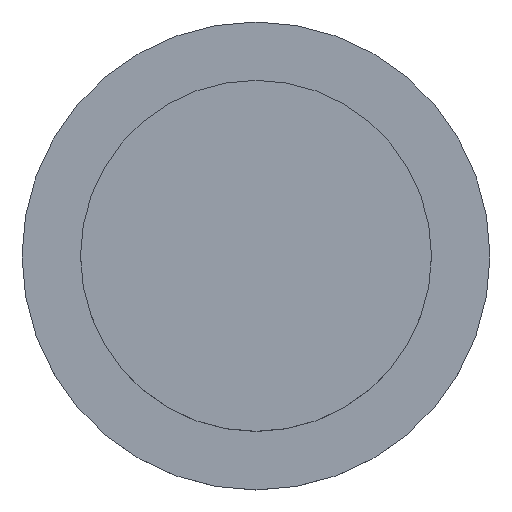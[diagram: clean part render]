
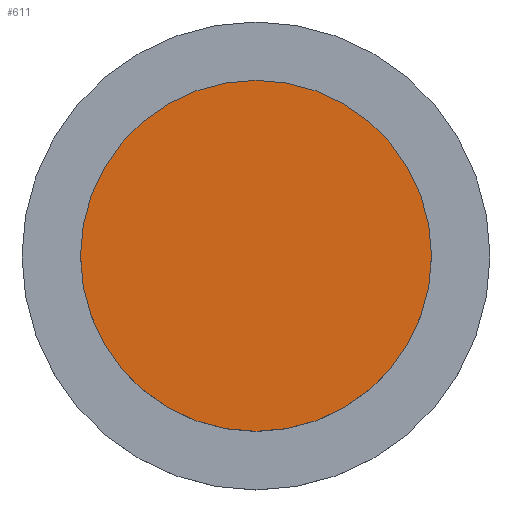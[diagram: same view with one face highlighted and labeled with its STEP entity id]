
A CAD part, top view. The second image highlights one B-rep face of the part: STEP entity #611.
In plain terms, the highlighted planar face has unit normal (0, 0, 1).
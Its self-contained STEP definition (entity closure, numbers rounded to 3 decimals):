
#526 = VERTEX_POINT('',#527);
#527 = CARTESIAN_POINT('',(150.,0.,90.));
#534 = CYLINDRICAL_SURFACE('',#535,150.);
#535 = AXIS2_PLACEMENT_3D('',#536,#537,#538);
#536 = CARTESIAN_POINT('',(0.,0.,72.));
#537 = DIRECTION('',(-0.,-0.,-1.));
#538 = DIRECTION('',(1.,0.,0.));
#553 = EDGE_CURVE('',#526,#526,#554,.T.);
#554 = SURFACE_CURVE('',#555,(#560,#567),.PCURVE_S1.);
#555 = CIRCLE('',#556,150.);
#556 = AXIS2_PLACEMENT_3D('',#557,#558,#559);
#557 = CARTESIAN_POINT('',(0.,0.,90.));
#558 = DIRECTION('',(0.,0.,1.));
#559 = DIRECTION('',(1.,0.,0.));
#560 = PCURVE('',#534,#561);
#561 = DEFINITIONAL_REPRESENTATION('',(#562),#566);
#562 = LINE('',#563,#564);
#563 = CARTESIAN_POINT('',(-0.,-18.));
#564 = VECTOR('',#565,1.);
#565 = DIRECTION('',(-1.,0.));
#566 = ( GEOMETRIC_REPRESENTATION_CONTEXT(2) 
PARAMETRIC_REPRESENTATION_CONTEXT() REPRESENTATION_CONTEXT('2D SPACE',''
  ) );
#567 = PCURVE('',#568,#573);
#568 = PLANE('',#569);
#569 = AXIS2_PLACEMENT_3D('',#570,#571,#572);
#570 = CARTESIAN_POINT('',(0.,0.,90.));
#571 = DIRECTION('',(0.,0.,1.));
#572 = DIRECTION('',(1.,0.,-0.));
#573 = DEFINITIONAL_REPRESENTATION('',(#574),#578);
#574 = CIRCLE('',#575,150.);
#575 = AXIS2_PLACEMENT_2D('',#576,#577);
#576 = CARTESIAN_POINT('',(0.,0.));
#577 = DIRECTION('',(1.,0.));
#578 = ( GEOMETRIC_REPRESENTATION_CONTEXT(2) 
PARAMETRIC_REPRESENTATION_CONTEXT() REPRESENTATION_CONTEXT('2D SPACE',''
  ) );
#611 = ADVANCED_FACE('',(#612),#568,.T.);
#612 = FACE_BOUND('',#613,.T.);
#613 = EDGE_LOOP('',(#614));
#614 = ORIENTED_EDGE('',*,*,#553,.T.);
